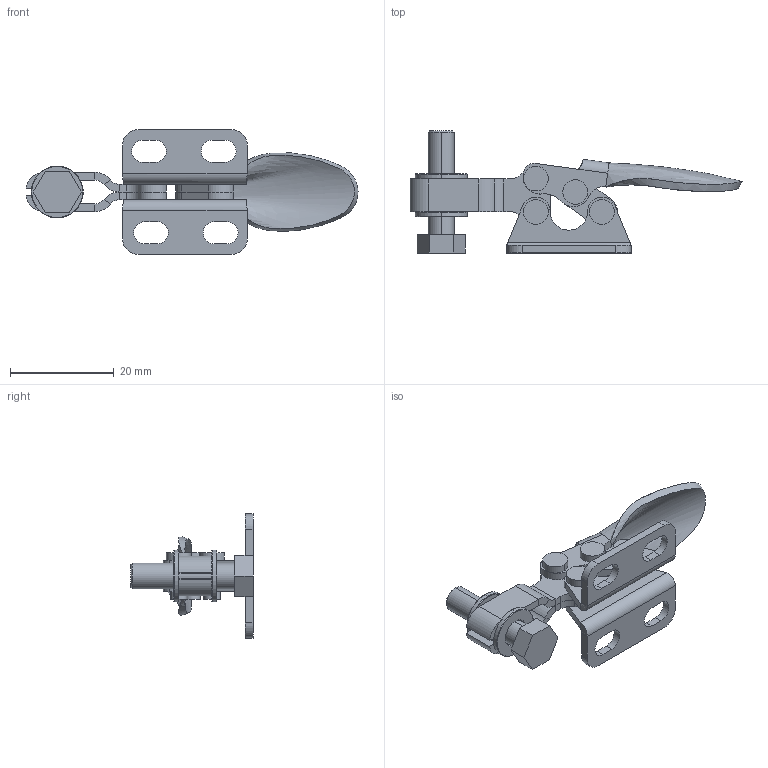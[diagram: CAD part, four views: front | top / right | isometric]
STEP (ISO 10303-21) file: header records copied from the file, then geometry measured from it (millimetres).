
FILE_DESCRIPTION (( 'STEP AP203' ), '1' );
FILE_NAME ('KF-105 D.STEP', '2011-07-22T17:16:41', ( 'Usuario' ), ( '' ), 'SwSTEP 2.0', 'SolidWorks 2011', '' );
FILE_SCHEMA (( 'CONFIG_CONTROL_DESIGN' ));
Length unit declared in the file: millimetre
Products named in the file (8): 01.10002_Montagem; 02.12003_Montagem; KF-105 D; 06.50048; 17.50007; 12.50035; 08.10002_Montagem; 03.13002_Montagem
Assembly tree (14 placements, depth 2):
  KF-105 D
    17.50007  x2
    06.50048  x4
    03.13002_Montagem  x2
    08.10002_Montagem  x2
    01.10002_Montagem
    12.50035
    02.12003_Montagem  x2
Bounding box: 63.86 x 23.5 x 24 mm (x, y, z)
Volume: 3453.6 mm3; surface area: 5685.8 mm2
Topology: 14 solids, 14 shells, 261 faces, 644 edges, 416 vertices
Faces by surface type: cylinder 130, plane 104, cone 18, bspline 9
Entity records: 8075 total; most frequent: CARTESIAN_POINT 3195, DIRECTION 816, ORIENTED_EDGE 800, EDGE_CURVE 400, AXIS2_PLACEMENT_3D 318, VERTEX_POINT 264, LINE 180, VECTOR 180
